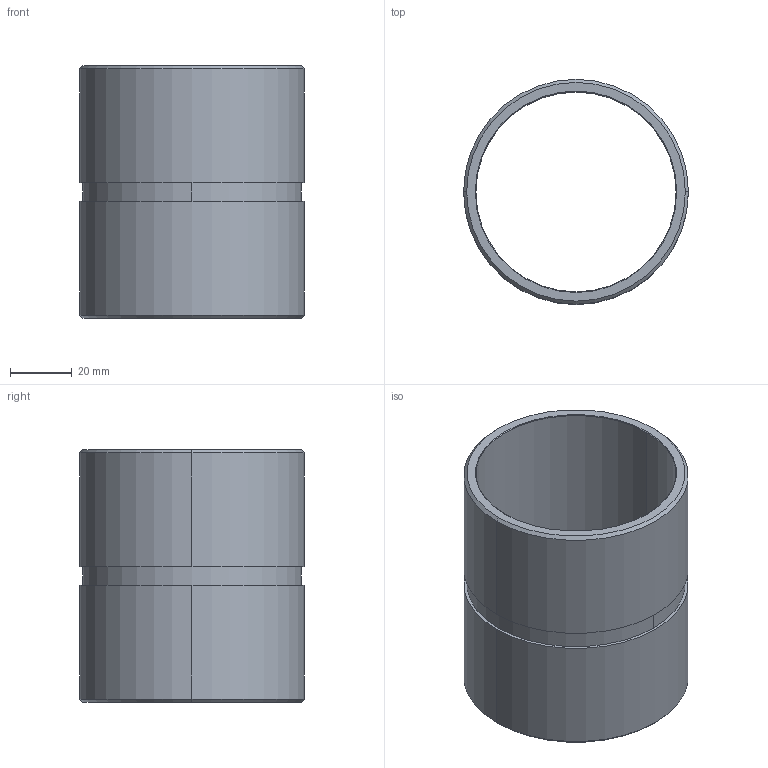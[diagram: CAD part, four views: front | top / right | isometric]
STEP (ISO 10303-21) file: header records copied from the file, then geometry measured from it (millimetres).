
FILE_DESCRIPTION(('CATIA V5 STEP','CAx-IF Rec.Pracs.--- Model Styling and Organization---1.4--- 2014-01-23','CAx-IF Rec.Pracs.---3D Tessellated Data Validation Properties---0.5---2014-09-14'),'2;1');
FILE_NAME('\\GSBFILE\data\URETIM\3D DATALAR\2016\KALIP ELEMANLARI\C KODLARI\C104-02\C104-02-070-080.stp','2019-08-06T07:45:51+00:00',('none'),('none'),'CATIA Version 5-6 Release 2016 SP6 HF8','CATIA V5 STEP AP242','none');
FILE_SCHEMA(('AP242_MANAGED_MODEL_BASED_3D_ENGINEERING_MIM_LF {1 0 10303 442 1 1 4}'));
Length unit declared in the file: millimetre
Products named in the file (1): Part1
Bounding box: 73 x 73 x 82 mm (x, y, z)
Volume: 69507.9 mm3; surface area: 37380.1 mm2
Topology: 1 solids, 1 shells, 20 faces, 40 edges, 24 vertices
Faces by surface type: cone 8, cylinder 8, plane 4
Entity records: 500 total; most frequent: CARTESIAN_POINT 80, ORIENTED_EDGE 80, DIRECTION 70, AXIS2_PLACEMENT_3D 40, EDGE_CURVE 40, CIRCLE 24, EDGE_LOOP 24, VERTEX_POINT 24
